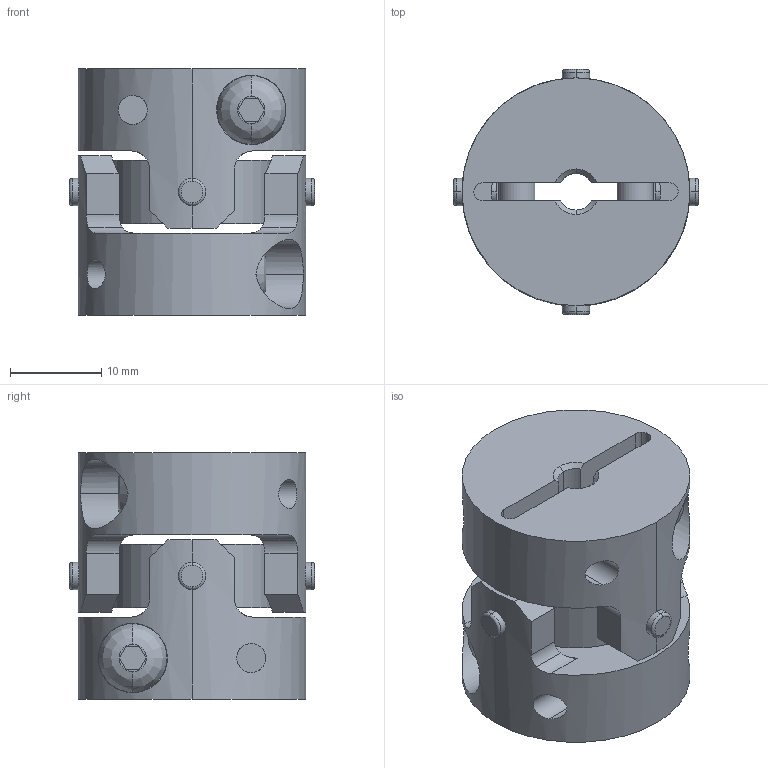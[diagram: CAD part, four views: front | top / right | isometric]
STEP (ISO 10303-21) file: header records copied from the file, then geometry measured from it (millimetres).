
FILE_DESCRIPTION((''),'2;1');
FILE_NAME('UA-25C-4×9.525.stp','2013-11-12T14:19:16',(''),(''),'AutoCAD STEP 2000i','AutoCAD 2000i',', , ');
FILE_SCHEMA(('CONFIG_CONTROL_DESIGN'));
Length unit declared in the file: millimetre
Products named in the file (6): UA-25C-5×5; 忣兜1; UA-2502-D05-1; BTN-M4; UA-2502-D05; UA25-SEN
Assembly tree (6 placements, depth 3):
  UA-25C-5×5
    忣兜1
    UA-2502-D05-1
      BTN-M4
    UA-2502-D05
      BTN-M4
    UA25-SEN
Bounding box: 26.89 x 26.89 x 27 mm (x, y, z)
Volume: 9149.6 mm3; surface area: 6462.4 mm2
Topology: 1 solids, 1 shells, 206 faces, 566 edges, 372 vertices
Faces by surface type: cylinder 96, plane 78, cone 16, bspline 8, torus 8
Entity records: 8439 total; most frequent: CARTESIAN_POINT 3067, ORIENTED_EDGE 1132, DIRECTION 1068, EDGE_CURVE 566, AXIS2_PLACEMENT_3D 409, VERTEX_POINT 372, VECTOR 250, LINE 250
